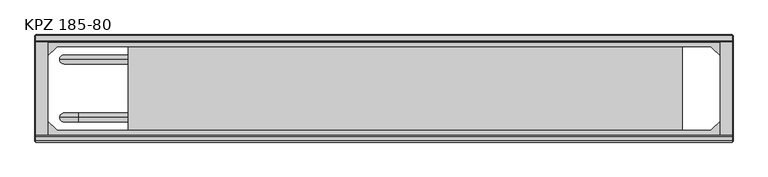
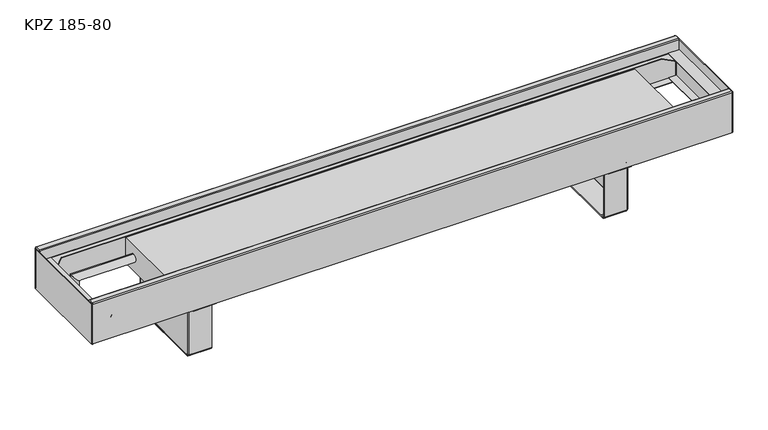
"""IFC4 building model written with IfcOpenShell, lengths in millimetres: proxy geometry, TECHNO_Конвектор напольный_Vita KPZ 185 : KPZ 185-80."""

from ifc_helpers import new_model, si_unit, point, frame, origin, place, context, project, spatial, polyline, circle_curve, ellipse_curve, trimmed, outline, extrude, source, transform, mapped, element, save
from ifc_brep_helpers import plane_surface, cylinder_surface, revolved_surface, advanced_brep


def kpz_185_80_cd63fb03(model_context):
    return source(origin(), model_context, "Body", "SolidModel", [
        advanced_brep(
        [(409.7, -116.8, 1.5), (409.7, -114.5, 3.8), (409.7, -114.5, 4.9), (409.7, -116.0, 4.9), (409.7, -116.0, 3.8), (409.7, -116.8, 3.0), (409.7, -124.5, 3.0), (409.7, -124.5, 1.5), (409.7, -117.6, 1.5), (409.7, -114.5, 97.7), (409.7, -113.7, 98.5), (409.7, -101.0, 98.5), (409.7, -101.0, 100.0), (409.7, -113.7, 100.0), (409.7, -116.0, 97.7), (409.7, -116.0, 95.5), (409.7, -114.5, 95.5), (409.7, -270.5, 3.8), (409.7, -268.2, 1.5), (409.7, -267.4, 1.5), (409.7, -260.5, 1.5), (409.7, -260.5, 3.0), (409.7, -268.2, 3.0), (409.7, -269.0, 3.8), (409.7, -269.0, 4.9), (409.7, -270.5, 4.9), (409.7, -269.0, 97.7), (409.7, -271.3, 100.0), (409.7, -284.0, 100.0), (409.7, -284.0, 98.5), (409.7, -271.3, 98.5), (409.7, -270.5, 97.7), (409.7, -270.5, 95.5), (409.7, -269.0, 95.5), (367.0, -270.5, 97.7), (367.0, -271.3, 98.5), (367.0, -284.0, 98.5), (367.0, -284.0, 100.0), (367.0, -271.3, 100.0), (367.0, -269.0, 97.7), (367.0, -269.0, 3.8), (367.0, -268.2, 3.0), (367.0, -260.5, 3.0), (367.0, -260.5, 1.5), (367.0, -124.5, 1.5), (367.0, -124.5, 3.0), (367.0, -116.8, 3.0), (367.0, -116.0, 3.8), (367.0, -116.0, 97.7), (367.0, -113.7, 100.0), (367.0, -101.0, 100.0), (367.0, -101.0, 98.5), (367.0, -113.7, 98.5), (367.0, -114.5, 97.7), (367.0, -114.5, 3.8), (367.0, -116.8, 1.5), (367.0, -117.6, 1.5), (367.0, -117.6, 0.0), (367.0, -267.4, 0.0), (367.0, -267.4, 1.5), (367.0, -268.2, 1.5), (367.0, -270.5, 3.8), (410.5, -116.8, 95.5), (410.5, -268.2, 95.5), (412.0, -268.2, 95.5), (412.0, -116.8, 95.5), (412.0, -116.8, 4.9), (412.0, -117.6, 4.9), (410.5, -117.6, 4.9), (410.5, -116.8, 4.9), (410.5, -268.2, 4.9), (410.5, -267.4, 4.9), (412.0, -267.4, 4.9), (412.0, -268.2, 4.9), (410.5, -117.6, 2.3), (410.5, -267.4, 2.3), (411.9999999, -267.4, 2.3), (412.0, -117.6, 2.3), (409.7, -117.6, 0.0), (409.7, -267.4, 0.0)],
        [
            (0, 1, circle_curve(frame((409.7, -116.8, 3.8), z_axis=(1.0, 0.0, 0.0), x_axis=(0.0, -1.0, 0.0)), 2.3)),
            (1, 2),
            (2, 3),
            (3, 4),
            (4, 5, circle_curve(frame((409.7, -116.8, 3.8), z_axis=(-1.0, 0.0, 0.0), x_axis=(0.0, -1.0, 0.0)), 0.8)),
            (5, 6),
            (6, 7),
            (7, 8),
            (8, 0),
            (9, 10, circle_curve(frame((409.7, -113.7, 97.7), z_axis=(-1.0, 0.0, 0.0), x_axis=(0.0, -1.0, 0.0)), 0.8)),
            (10, 11),
            (11, 12),
            (12, 13),
            (13, 14, circle_curve(frame((409.7, -113.7, 97.7), z_axis=(1.0, 0.0, 0.0), x_axis=(0.0, -1.0, 0.0)), 2.3)),
            (14, 15),
            (15, 16),
            (16, 9),
            (17, 18, circle_curve(frame((409.7, -268.2, 3.8), z_axis=(1.0, 0.0, 0.0), x_axis=(0.0, -1.0, 0.0)), 2.3)),
            (18, 19),
            (19, 20),
            (20, 21),
            (21, 22),
            (22, 23, circle_curve(frame((409.7, -268.2, 3.8), z_axis=(-1.0, 0.0, 0.0), x_axis=(0.0, -1.0, 0.0)), 0.8)),
            (23, 24),
            (24, 25),
            (25, 17),
            (26, 27, circle_curve(frame((409.7, -271.3, 97.7), z_axis=(1.0, 0.0, 0.0), x_axis=(0.0, -1.0, 0.0)), 2.3)),
            (27, 28),
            (28, 29),
            (29, 30),
            (30, 31, circle_curve(frame((409.7, -271.3, 97.7), z_axis=(-1.0, 0.0, 0.0), x_axis=(0.0, -1.0, 0.0)), 0.8)),
            (31, 32),
            (32, 33),
            (33, 26),
            (34, 35, circle_curve(frame((367.0, -271.3, 97.7), z_axis=(1.0, 0.0, 0.0), x_axis=(0.0, -1.0, 0.0)), 0.8)),
            (35, 36),
            (36, 37),
            (37, 38),
            (38, 39, circle_curve(frame((367.0, -271.3, 97.7), z_axis=(-1.0, 0.0, 0.0), x_axis=(0.0, -1.0, 0.0)), 2.3)),
            (39, 40),
            (40, 41, circle_curve(frame((367.0, -268.2, 3.8), z_axis=(1.0, 0.0, 0.0), x_axis=(0.0, -1.0, 0.0)), 0.8)),
            (41, 42),
            (42, 43),
            (43, 44),
            (44, 45),
            (45, 46),
            (46, 47, circle_curve(frame((367.0, -116.8, 3.8), z_axis=(1.0, 0.0, 0.0), x_axis=(0.0, -1.0, 0.0)), 0.8)),
            (47, 48),
            (48, 49, circle_curve(frame((367.0, -113.7, 97.7), z_axis=(-1.0, 0.0, 0.0), x_axis=(0.0, -1.0, 0.0)), 2.3)),
            (49, 50),
            (50, 51),
            (51, 52),
            (52, 53, circle_curve(frame((367.0, -113.7, 97.7), z_axis=(1.0, 0.0, 0.0), x_axis=(0.0, -1.0, 0.0)), 0.8)),
            (53, 54),
            (54, 55, circle_curve(frame((367.0, -116.8, 3.8), z_axis=(-1.0, 0.0, 0.0), x_axis=(0.0, -1.0, 0.0)), 2.3)),
            (55, 56),
            (56, 57),
            (57, 58),
            (58, 59),
            (59, 60),
            (60, 61, circle_curve(frame((367.0, -268.2, 3.8), z_axis=(-1.0, 0.0, 0.0), x_axis=(0.0, -1.0, 0.0)), 2.3)),
            (61, 34),
            (30, 35),
            (34, 31),
            (29, 36),
            (28, 37),
            (27, 38),
            (26, 39),
            (33, 24),
            (23, 40),
            (22, 41),
            (5, 46),
            (45, 6),
            (4, 47),
            (3, 15),
            (14, 48),
            (13, 49),
            (12, 50),
            (11, 51),
            (10, 52),
            (9, 53),
            (16, 2),
            (1, 54),
            (0, 55),
            (8, 56),
            (17, 61),
            (60, 18),
            (25, 32),
            (21, 42),
            (20, 43),
            (59, 19),
            (44, 7),
            (15, 62, circle_curve(frame((409.7, -116.8, 95.5), z_axis=(0.0, 0.0, -1.0), x_axis=(-1.0, 0.0, 0.0)), 0.8)),
            (62, 63),
            (63, 33, circle_curve(frame((409.7, -268.2, 95.5), z_axis=(0.0, 0.0, -1.0), x_axis=(-1.0, 0.0, 0.0)), 0.8)),
            (32, 64, circle_curve(frame((409.7, -268.2, 95.5), z_axis=(0.0, 0.0, 1.0), x_axis=(-1.0, 0.0, 0.0)), 2.3)),
            (64, 65),
            (65, 16, circle_curve(frame((409.7, -116.8, 95.5), z_axis=(0.0, 0.0, 1.0), x_axis=(-1.0, 0.0, 0.0)), 2.3)),
            (2, 66, circle_curve(frame((409.7, -116.8, 4.9), z_axis=(0.0, 0.0, -1.0), x_axis=(-1.0, 0.0, 0.0)), 2.3)),
            (66, 67),
            (67, 68),
            (68, 69),
            (69, 3, circle_curve(frame((409.7, -116.8, 4.9), z_axis=(0.0, 0.0, 1.0), x_axis=(-1.0, 0.0, 0.0)), 0.8)),
            (24, 70, circle_curve(frame((409.7, -268.2, 4.9), z_axis=(0.0, 0.0, 1.0), x_axis=(-1.0, 0.0, 0.0)), 0.8)),
            (70, 71),
            (71, 72),
            (72, 73),
            (73, 25, circle_curve(frame((409.7, -268.2, 4.9), z_axis=(0.0, 0.0, -1.0), x_axis=(-1.0, 0.0, 0.0)), 2.3)),
            (69, 62),
            (68, 74),
            (74, 75),
            (75, 71),
            (70, 63),
            (64, 73),
            (72, 76),
            (76, 77),
            (77, 67),
            (66, 65),
            (8, 74, circle_curve(frame((409.7, -117.6, 2.3), z_axis=(0.0, -1.0, 0.0), x_axis=(-1.0, 0.0, 0.0)), 0.8)),
            (77, 78, circle_curve(frame((409.7, -117.6, 2.3), z_axis=(0.0, 1.0, 0.0), x_axis=(-1.0, 0.0, 0.0)), 2.3)),
            (78, 57),
            (58, 79),
            (79, 76, circle_curve(frame((409.7, -267.4, 2.3), z_axis=(0.0, -1.0, 0.0), x_axis=(-1.0, 0.0, 0.0)), 2.3)),
            (75, 19, circle_curve(frame((409.7, -267.4, 2.3), z_axis=(0.0, 1.0, 0.0), x_axis=(-1.0, 0.0, 0.0)), 0.8)),
            (20, 7),
            (79, 78),
        ],
        [
            plane_surface(frame((409.7, -272.1, 97.7), z_axis=(1.0, 0.0, 0.0), x_axis=(0.0, 0.0, 1.0))),
            plane_surface(frame((367.0, -272.1, 97.7), z_axis=(-1.0, 0.0, 0.0), x_axis=(0.0, 0.0, -1.0))),
            revolved_surface(polyline([(409.7, -272.1, 97.7), (367.0, -272.1, 97.7)]), (409.7, -271.3, 97.7), (1.0, 0.0, 0.0)),
            plane_surface(frame((367.0, -271.3, 98.5), z_axis=(0.0, 0.0, -1.0), x_axis=(1.0, 0.0, 0.0))),
            plane_surface(frame((367.0, -284.0, 98.5), z_axis=(0.0, -1.0, 0.0), x_axis=(1.0, 0.0, 0.0))),
            plane_surface(frame((367.0, -284.0, 100.0), z_axis=(0.0, 0.0, 1.0), x_axis=(1.0, 0.0, 0.0))),
            cylinder_surface(frame((409.7, -271.3, 97.7), z_axis=(-1.0, 0.0, 0.0), x_axis=(0.0, -1.0, 0.0)), 2.3),
            plane_surface(frame((367.0, -269.0, 97.7), z_axis=(0.0, 1.0, 3.692083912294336e-12), x_axis=(1.0, 0.0, 0.0))),
            revolved_surface(polyline([(409.7, -269.0, 3.8), (367.0, -269.0, 3.8)]), (409.7, -268.2, 3.8), (1.0, 0.0, 0.0)),
            plane_surface(frame((367.0, -124.5, 3.0), z_axis=(0.0, 0.0, 1.0), x_axis=(1.0, 0.0, 0.0))),
            revolved_surface(polyline([(409.7, -117.6, 3.8), (367.0, -117.6, 3.8)]), (412.0, -116.8, 3.8), (1.0, 0.0, 0.0)),
            plane_surface(frame((367.0, -116.0, 3.8), z_axis=(0.0, -1.0, 0.0), x_axis=(1.0, 0.0, 0.0))),
            cylinder_surface(frame((412.0, -113.7, 97.7), z_axis=(-1.0, 0.0, 0.0), x_axis=(0.0, -1.0, 0.0)), 2.3),
            plane_surface(frame((367.0, -113.7, 100.0), z_axis=(0.0, 0.0, 1.0), x_axis=(1.0, 0.0, 0.0))),
            plane_surface(frame((367.0, -101.0, 100.0), z_axis=(0.0, 1.0, 0.0), x_axis=(1.0, 0.0, 0.0))),
            plane_surface(frame((367.0, -101.0, 98.5), z_axis=(0.0, 0.0, -1.0), x_axis=(1.0, 0.0, 0.0))),
            revolved_surface(polyline([(409.7, -114.5, 97.7), (367.0, -114.5, 97.7)]), (412.0, -113.7, 97.7), (1.0, 0.0, 0.0)),
            plane_surface(frame((367.0, -114.5, 97.7), z_axis=(0.0, 1.0, 0.0), x_axis=(1.0, 0.0, 0.0))),
            cylinder_surface(frame((412.0, -116.8, 3.8), z_axis=(-1.0, 0.0, 0.0), x_axis=(0.0, -1.0, 0.0)), 2.3),
            plane_surface(frame((367.0, -116.8, 1.5), z_axis=(0.0, 0.0, -1.0), x_axis=(1.0, 0.0, 0.0))),
            cylinder_surface(frame((409.7, -268.2, 3.8), z_axis=(-1.0, 0.0, 0.0), x_axis=(0.0, -1.0, 0.0)), 2.3),
            plane_surface(frame((367.0, -270.5, 3.8), z_axis=(0.0, -1.0, 0.0), x_axis=(1.0, 0.0, 0.0))),
            plane_surface(frame((367.0, -268.2, 3.0), z_axis=(0.0, 0.0, 1.0), x_axis=(1.0, 0.0, 0.0))),
            plane_surface(frame((367.0, -260.5, 3.0), z_axis=(0.0, 1.0, 0.0), x_axis=(1.0, 0.0, 0.0))),
            plane_surface(frame((367.0, -260.5, 1.5), z_axis=(0.0, 0.0, -1.0), x_axis=(1.0, 0.0, 0.0))),
            plane_surface(frame((367.0, -124.5, 1.5), z_axis=(0.0, -1.0, 0.0), x_axis=(1.0, 0.0, 0.0))),
            plane_surface(frame((409.7, -116.0, 95.5), z_axis=(0.0, 0.0, 1.0), x_axis=(0.0, -1.0, 0.0))),
            plane_surface(frame((409.7, -116.0, 4.9), z_axis=(0.0, 0.0, -1.0), x_axis=(0.0, 1.0, 0.0))),
            revolved_surface(polyline([(408.9, -116.8, 4.9), (408.9, -116.8, 95.5)]), (409.7, -116.8, 4.9), (0.0, 0.0, -1.0)),
            plane_surface(frame((410.5, -116.8, 95.5), z_axis=(-1.0, 0.0, 0.0), x_axis=(0.0, 0.0, -1.0))),
            plane_surface(frame((412.0, -117.6, 95.5), z_axis=(1.0, -4.322665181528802e-10, 0.0), x_axis=(0.0, 0.0, -1.0))),
            cylinder_surface(frame((409.7, -116.8, 4.9), z_axis=(0.0, 0.0, 1.0), x_axis=(-1.0, 0.0, 0.0)), 2.3),
            cylinder_surface(frame((409.7, -268.2, 0.0), z_axis=(0.0, 0.0, 1.0), x_axis=(-1.0, 0.0, 0.0)), 2.3),
            revolved_surface(polyline([(408.9, -268.2, 4.9), (408.9, -268.2, 95.5)]), (409.7, -268.2, 0.0), (0.0, 0.0, -1.0)),
            plane_surface(frame((367.0, -117.6, 1.5), z_axis=(0.0, 1.0, 0.0), x_axis=(0.0, 0.0, 1.0))),
            plane_surface(frame((367.0, -267.4, 1.5), z_axis=(0.0, -1.0, 0.0), x_axis=(0.0, 0.0, -1.0))),
            plane_surface(frame((367.0, -117.6, 1.5), z_axis=(0.0, 0.0, 1.0), x_axis=(0.0, -1.0, 0.0))),
            revolved_surface(polyline([(408.9, -267.4, 2.3), (408.9, -117.6, 2.3)]), (409.7, -267.4, 2.3), (0.0, -1.0, 0.0)),
            cylinder_surface(frame((409.7, -267.4, 2.3), z_axis=(0.0, 1.0, 0.0), x_axis=(-1.0, 0.0, 0.0)), 2.3),
            plane_surface(frame((409.7, -117.6, 0.0), z_axis=(0.0, 0.0, -1.0), x_axis=(0.0, -1.0, 0.0))),
        ],
        [
            (0, [[1, 2, 3, 4, 5, 6, 7, 8, 9]]),
            (0, [[10, 11, 12, 13, 14, 15, 16, 17]]),
            (0, [[18, 19, 20, 21, 22, 23, 24, 25, 26]]),
            (0, [[27, 28, 29, 30, 31, 32, 33, 34]]),
            (1, [[35, 36, 37, 38, 39, 40, 41, 42, 43, 44, 45, 46, 47, 48, 49, 50, 51, 52, 53, 54, 55, 56, 57, 58, 59, 60, 61, 62]]),
            (2, [[-31, 63, -35, 64]]),
            (3, [[-30, 65, -36, -63]]),
            (4, [[-29, 66, -37, -65]]),
            (5, [[-28, 67, -38, -66]]),
            (6, [[-27, 68, -39, -67]]),
            (7, [[-40, -68, -34, 69, -24, 70]]),
            (8, [[-23, 71, -41, -70]]),
            (9, [[-6, 72, -46, 73]]),
            (10, [[-5, 74, -47, -72]]),
            (11, [[-48, -74, -4, 75, -15, 76]]),
            (12, [[-14, 77, -49, -76]]),
            (13, [[-13, 78, -50, -77]]),
            (14, [[-12, 79, -51, -78]]),
            (15, [[-11, 80, -52, -79]]),
            (16, [[-10, 81, -53, -80]]),
            (17, [[-54, -81, -17, 82, -2, 83]]),
            (18, [[-1, 84, -55, -83]]),
            (19, [[-84, -9, 85, -56]]),
            (20, [[-18, 86, -61, 87]]),
            (21, [[-62, -86, -26, 88, -32, -64]]),
            (22, [[-22, 89, -42, -71]]),
            (23, [[-21, 90, -43, -89]]),
            (24, [[-87, -60, 91, -19]]),
            (25, [[-7, -73, -45, 92]]),
            (26, [[93, 94, 95, -33, 96, 97, 98, -16]]),
            (27, [[99, 100, 101, 102, 103, -3]]),
            (27, [[104, 105, 106, 107, 108, -25]]),
            (28, [[-93, -75, -103, 109]]),
            (29, [[-94, -109, -102, 110, 111, 112, -105, 113]]),
            (30, [[-97, 114, -107, 115, 116, 117, -100, 118]]),
            (31, [[-98, -118, -99, -82]]),
            (32, [[-96, -88, -108, -114]]),
            (33, [[-95, -113, -104, -69]]),
            (34, [[-57, -85, 119, -110, -101, -117, 120, 121]]),
            (35, [[122, 123, -115, -106, -112, 124, -91, -59]]),
            (36, [[125, -92, -44, -90]]),
            (37, [[-119, -8, -125, -20, -124, -111]]),
            (38, [[-120, -116, -123, 126]]),
            (39, [[-121, -126, -122, -58]]),
        ],
    ),
        advanced_brep(
        [(-409.7, -268.2, 1.5), (-409.7, -270.5, 3.8), (-409.7, -270.5, 4.9), (-409.7, -269.0, 4.9), (-409.7, -269.0, 3.8), (-409.7, -268.2, 3.0), (-409.7, -260.5, 3.0), (-409.7, -260.5, 1.5), (-409.7, -267.4, 1.5), (-409.7, -270.5, 97.7), (-409.7, -271.3, 98.5), (-409.7, -284.0, 98.5), (-409.7, -284.0, 100.0), (-409.7, -271.3, 100.0), (-409.7, -269.0, 97.7), (-409.7, -269.0, 95.5), (-409.7, -270.5, 95.5), (-409.7, -114.5, 3.8), (-409.7, -116.8, 1.5), (-409.7, -117.6, 1.5), (-409.7, -124.5, 1.5), (-409.7, -124.5, 3.0), (-409.7, -116.8, 3.0), (-409.7, -116.0, 3.8), (-409.7, -116.0, 4.9), (-409.7, -114.5, 4.9), (-409.7, -116.0, 97.7), (-409.7, -113.7, 100.0), (-409.7, -101.0, 100.0), (-409.7, -101.0, 98.5), (-409.7, -113.7, 98.5), (-409.7, -114.5, 97.7), (-409.7, -114.5, 95.5), (-409.7, -116.0, 95.5), (-367.0, -114.5, 97.7), (-367.0, -113.7, 98.5), (-367.0, -101.0, 98.5), (-367.0, -101.0, 100.0), (-367.0, -113.7, 100.0), (-367.0, -116.0, 97.7), (-367.0, -116.0, 3.8), (-367.0, -116.8, 3.0), (-367.0, -124.5, 3.0), (-367.0, -124.5, 1.5), (-367.0, -260.5, 1.5), (-367.0, -260.5, 3.0), (-367.0, -268.2, 3.0), (-367.0, -269.0, 3.8), (-367.0, -269.0, 97.7), (-367.0, -271.3, 100.0), (-367.0, -284.0, 100.0), (-367.0, -284.0, 98.5), (-367.0, -271.3, 98.5), (-367.0, -270.5, 97.7), (-367.0, -270.5, 3.8), (-367.0, -268.2, 1.5), (-367.0, -267.4, 1.5), (-367.0, -267.4, 0.0), (-367.0, -117.6, 0.0), (-367.0, -117.6, 1.5), (-367.0, -116.8, 1.5), (-367.0, -114.5, 3.8), (-410.5, -268.2, 95.5), (-410.5, -116.8, 95.5), (-412.0, -116.8, 95.5), (-412.0, -268.2, 95.5), (-412.0, -268.2, 4.9), (-412.0, -267.4, 4.9), (-410.5, -267.4, 4.9), (-410.5, -268.2, 4.9), (-410.5, -116.8, 4.9), (-410.5, -117.6, 4.9), (-412.0, -117.6, 4.9), (-412.0, -116.8, 4.9), (-410.5, -267.4, 2.3), (-410.5, -117.6, 2.3), (-411.9999999, -117.6, 2.3), (-412.0, -267.4, 2.3), (-409.7, -267.4, 0.0), (-409.7, -117.6, 0.0)],
        [
            (0, 1, circle_curve(frame((-409.7, -268.2, 3.8), z_axis=(-1.0, 0.0, 0.0), x_axis=(0.0, 1.0, 0.0)), 2.3)),
            (1, 2),
            (2, 3),
            (3, 4),
            (4, 5, circle_curve(frame((-409.7, -268.2, 3.8), z_axis=(1.0, 0.0, 0.0), x_axis=(0.0, 1.0, 0.0)), 0.8)),
            (5, 6),
            (6, 7),
            (7, 8),
            (8, 0),
            (9, 10, circle_curve(frame((-409.7, -271.3, 97.7), z_axis=(1.0, 0.0, 0.0), x_axis=(0.0, 1.0, 0.0)), 0.8)),
            (10, 11),
            (11, 12),
            (12, 13),
            (13, 14, circle_curve(frame((-409.7, -271.3, 97.7), z_axis=(-1.0, 0.0, 0.0), x_axis=(0.0, 1.0, 0.0)), 2.3)),
            (14, 15),
            (15, 16),
            (16, 9),
            (17, 18, circle_curve(frame((-409.7, -116.8, 3.8), z_axis=(-1.0, 0.0, 0.0), x_axis=(0.0, 1.0, 0.0)), 2.3)),
            (18, 19),
            (19, 20),
            (20, 21),
            (21, 22),
            (22, 23, circle_curve(frame((-409.7, -116.8, 3.8), z_axis=(1.0, 0.0, 0.0), x_axis=(0.0, 1.0, 0.0)), 0.8)),
            (23, 24),
            (24, 25),
            (25, 17),
            (26, 27, circle_curve(frame((-409.7, -113.7, 97.7), z_axis=(-1.0, 0.0, 0.0), x_axis=(0.0, 1.0, 0.0)), 2.3)),
            (27, 28),
            (28, 29),
            (29, 30),
            (30, 31, circle_curve(frame((-409.7, -113.7, 97.7), z_axis=(1.0, 0.0, 0.0), x_axis=(0.0, 1.0, 0.0)), 0.8)),
            (31, 32),
            (32, 33),
            (33, 26),
            (34, 35, circle_curve(frame((-367.0, -113.7, 97.7), z_axis=(-1.0, 0.0, 0.0), x_axis=(0.0, 1.0, 0.0)), 0.8)),
            (35, 36),
            (36, 37),
            (37, 38),
            (38, 39, circle_curve(frame((-367.0, -113.7, 97.7), z_axis=(1.0, 0.0, 0.0), x_axis=(0.0, 1.0, 0.0)), 2.3)),
            (39, 40),
            (40, 41, circle_curve(frame((-367.0, -116.8, 3.8), z_axis=(-1.0, 0.0, 0.0), x_axis=(0.0, 1.0, 0.0)), 0.8)),
            (41, 42),
            (42, 43),
            (43, 44),
            (44, 45),
            (45, 46),
            (46, 47, circle_curve(frame((-367.0, -268.2, 3.8), z_axis=(-1.0, 0.0, 0.0), x_axis=(0.0, 1.0, 0.0)), 0.8)),
            (47, 48),
            (48, 49, circle_curve(frame((-367.0, -271.3, 97.7), z_axis=(1.0, 0.0, 0.0), x_axis=(0.0, 1.0, 0.0)), 2.3)),
            (49, 50),
            (50, 51),
            (51, 52),
            (52, 53, circle_curve(frame((-367.0, -271.3, 97.7), z_axis=(-1.0, 0.0, 0.0), x_axis=(0.0, 1.0, 0.0)), 0.8)),
            (53, 54),
            (54, 55, circle_curve(frame((-367.0, -268.2, 3.8), z_axis=(1.0, 0.0, 0.0), x_axis=(0.0, 1.0, 0.0)), 2.3)),
            (55, 56),
            (56, 57),
            (57, 58),
            (58, 59),
            (59, 60),
            (60, 61, circle_curve(frame((-367.0, -116.8, 3.8), z_axis=(1.0, 0.0, 0.0), x_axis=(0.0, 1.0, 0.0)), 2.3)),
            (61, 34),
            (30, 35),
            (34, 31),
            (29, 36),
            (28, 37),
            (27, 38),
            (26, 39),
            (33, 24),
            (23, 40),
            (22, 41),
            (5, 46),
            (45, 6),
            (4, 47),
            (3, 15),
            (14, 48),
            (13, 49),
            (12, 50),
            (11, 51),
            (10, 52),
            (9, 53),
            (16, 2),
            (1, 54),
            (0, 55),
            (8, 56),
            (17, 61),
            (60, 18),
            (25, 32),
            (21, 42),
            (20, 43),
            (59, 19),
            (44, 7),
            (15, 62, circle_curve(frame((-409.7, -268.2, 95.5), z_axis=(0.0, 0.0, -1.0), x_axis=(1.0, 0.0, 0.0)), 0.8)),
            (62, 63),
            (63, 33, circle_curve(frame((-409.7, -116.8, 95.5), z_axis=(0.0, 0.0, -1.0), x_axis=(1.0, 0.0, 0.0)), 0.8)),
            (32, 64, circle_curve(frame((-409.7, -116.8, 95.5), z_axis=(0.0, 0.0, 1.0), x_axis=(1.0, 0.0, 0.0)), 2.3)),
            (64, 65),
            (65, 16, circle_curve(frame((-409.7, -268.2, 95.5), z_axis=(0.0, 0.0, 1.0), x_axis=(1.0, 0.0, 0.0)), 2.3)),
            (2, 66, circle_curve(frame((-409.7, -268.2, 4.9), z_axis=(0.0, 0.0, -1.0), x_axis=(1.0, 0.0, 0.0)), 2.3)),
            (66, 67),
            (67, 68),
            (68, 69),
            (69, 3, circle_curve(frame((-409.7, -268.2, 4.9), z_axis=(0.0, 0.0, 1.0), x_axis=(1.0, 0.0, 0.0)), 0.8)),
            (24, 70, circle_curve(frame((-409.7, -116.8, 4.9), z_axis=(0.0, 0.0, 1.0), x_axis=(1.0, 0.0, 0.0)), 0.8)),
            (70, 71),
            (71, 72),
            (72, 73),
            (73, 25, circle_curve(frame((-409.7, -116.8, 4.9), z_axis=(0.0, 0.0, -1.0), x_axis=(1.0, 0.0, 0.0)), 2.3)),
            (69, 62),
            (68, 74),
            (74, 75),
            (75, 71),
            (70, 63),
            (64, 73),
            (72, 76),
            (76, 77),
            (77, 67),
            (66, 65),
            (8, 74, circle_curve(frame((-409.7, -267.4, 2.3), z_axis=(0.0, 1.0, 0.0), x_axis=(1.0, 0.0, 0.0)), 0.8)),
            (77, 78, circle_curve(frame((-409.7, -267.4, 2.3), z_axis=(0.0, -1.0, 0.0), x_axis=(1.0, 0.0, 0.0)), 2.3)),
            (78, 57),
            (58, 79),
            (79, 76, circle_curve(frame((-409.7, -117.6, 2.3), z_axis=(0.0, 1.0, 0.0), x_axis=(1.0, 0.0, 0.0)), 2.3)),
            (75, 19, circle_curve(frame((-409.7, -117.6, 2.3), z_axis=(0.0, -1.0, 0.0), x_axis=(1.0, 0.0, 0.0)), 0.8)),
            (20, 7),
            (79, 78),
        ],
        [
            plane_surface(frame((-409.7, -112.9, 97.7), z_axis=(-1.0, 0.0, 0.0), x_axis=(0.0, 0.0, 1.0))),
            plane_surface(frame((-367.0, -112.9, 97.7), z_axis=(1.0, 0.0, 0.0), x_axis=(0.0, 0.0, -1.0))),
            revolved_surface(polyline([(-409.7, -112.9, 97.7), (-367.0, -112.9, 97.7)]), (-409.7, -113.7, 97.7), (-1.0, 0.0, 0.0)),
            plane_surface(frame((-367.0, -113.7, 98.5), z_axis=(0.0, 0.0, -1.0), x_axis=(-1.0, 0.0, 0.0))),
            plane_surface(frame((-367.0, -101.0, 98.5), z_axis=(0.0, 1.0, 0.0), x_axis=(-1.0, 0.0, 0.0))),
            plane_surface(frame((-367.0, -101.0, 100.0), z_axis=(0.0, 0.0, 1.0), x_axis=(-1.0, 0.0, 0.0))),
            cylinder_surface(frame((-409.7, -113.7, 97.7), z_axis=(1.0, 0.0, 0.0), x_axis=(0.0, 1.0, 0.0)), 2.3),
            plane_surface(frame((-367.0, -116.0, 97.7), z_axis=(0.0, -1.0, 3.692083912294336e-12), x_axis=(-1.0, 0.0, 0.0))),
            revolved_surface(polyline([(-409.7, -116.0, 3.8), (-367.0, -116.0, 3.8)]), (-409.7, -116.8, 3.8), (-1.0, 0.0, 0.0)),
            plane_surface(frame((-367.0, -260.5, 3.0), z_axis=(0.0, 0.0, 1.0), x_axis=(-1.0, 0.0, 0.0))),
            revolved_surface(polyline([(-409.7, -267.4, 3.8), (-367.0, -267.4, 3.8)]), (-412.0, -268.2, 3.8), (-1.0, 0.0, 0.0)),
            plane_surface(frame((-367.0, -269.0, 3.8), z_axis=(0.0, 1.0, 0.0), x_axis=(-1.0, 0.0, 0.0))),
            cylinder_surface(frame((-412.0, -271.3, 97.7), z_axis=(1.0, 0.0, 0.0), x_axis=(0.0, 1.0, 0.0)), 2.3),
            plane_surface(frame((-367.0, -271.3, 100.0), z_axis=(0.0, 0.0, 1.0), x_axis=(-1.0, 0.0, 0.0))),
            plane_surface(frame((-367.0, -284.0, 100.0), z_axis=(0.0, -1.0, 0.0), x_axis=(-1.0, 0.0, 0.0))),
            plane_surface(frame((-367.0, -284.0, 98.5), z_axis=(0.0, 0.0, -1.0), x_axis=(-1.0, 0.0, 0.0))),
            revolved_surface(polyline([(-409.7, -270.5, 97.7), (-367.0, -270.5, 97.7)]), (-412.0, -271.3, 97.7), (-1.0, 0.0, 0.0)),
            plane_surface(frame((-367.0, -270.5, 97.7), z_axis=(0.0, -1.0, 0.0), x_axis=(-1.0, 0.0, 0.0))),
            cylinder_surface(frame((-412.0, -268.2, 3.8), z_axis=(1.0, 0.0, 0.0), x_axis=(0.0, 1.0, 0.0)), 2.3),
            plane_surface(frame((-367.0, -268.2, 1.5), z_axis=(0.0, 0.0, -1.0), x_axis=(-1.0, 0.0, 0.0))),
            cylinder_surface(frame((-409.7, -116.8, 3.8), z_axis=(1.0, 0.0, 0.0), x_axis=(0.0, 1.0, 0.0)), 2.3),
            plane_surface(frame((-367.0, -114.5, 3.8), z_axis=(0.0, 1.0, 0.0), x_axis=(-1.0, 0.0, 0.0))),
            plane_surface(frame((-367.0, -116.8, 3.0), z_axis=(0.0, 0.0, 1.0), x_axis=(-1.0, 0.0, 0.0))),
            plane_surface(frame((-367.0, -124.5, 3.0), z_axis=(0.0, -1.0, 0.0), x_axis=(-1.0, 0.0, 0.0))),
            plane_surface(frame((-367.0, -124.5, 1.5), z_axis=(0.0, 0.0, -1.0), x_axis=(-1.0, 0.0, 0.0))),
            plane_surface(frame((-367.0, -260.5, 1.5), z_axis=(0.0, 1.0, 0.0), x_axis=(-1.0, 0.0, 0.0))),
            plane_surface(frame((-409.7, -269.0, 95.5), z_axis=(0.0, 0.0, 1.0), x_axis=(0.0, 1.0, 0.0))),
            plane_surface(frame((-409.7, -269.0, 4.9), z_axis=(0.0, 0.0, -1.0), x_axis=(0.0, -1.0, 0.0))),
            revolved_surface(polyline([(-408.9, -268.2, 4.9), (-408.9, -268.2, 95.5)]), (-409.7, -268.2, 4.9), (0.0, 0.0, -1.0)),
            plane_surface(frame((-410.5, -268.2, 95.5), z_axis=(1.0, 0.0, 0.0), x_axis=(0.0, 0.0, -1.0))),
            plane_surface(frame((-412.0, -267.4, 95.5), z_axis=(-1.0, 4.3226335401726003e-10, 0.0), x_axis=(0.0, 0.0, -1.0))),
            cylinder_surface(frame((-409.7, -268.2, 4.9), z_axis=(0.0, 0.0, 1.0), x_axis=(1.0, 0.0, 0.0)), 2.3),
            cylinder_surface(frame((-409.7, -116.8, 0.0), z_axis=(0.0, 0.0, 1.0), x_axis=(1.0, 0.0, 0.0)), 2.3),
            revolved_surface(polyline([(-408.9, -116.8, 4.9), (-408.9, -116.8, 95.5)]), (-409.7, -116.8, 0.0), (0.0, 0.0, -1.0)),
            plane_surface(frame((-367.0, -267.4, 1.5), z_axis=(0.0, -1.0, 0.0), x_axis=(0.0, 0.0, 1.0))),
            plane_surface(frame((-367.0, -117.6, 1.5), z_axis=(0.0, 1.0, 0.0), x_axis=(0.0, 0.0, -1.0))),
            plane_surface(frame((-367.0, -267.4, 1.5), z_axis=(0.0, 0.0, 1.0), x_axis=(0.0, 1.0, 0.0))),
            revolved_surface(polyline([(-408.9, -117.6, 2.3), (-408.9, -267.4, 2.3)]), (-409.7, -117.6, 2.3), (0.0, 1.0, 0.0)),
            cylinder_surface(frame((-409.7, -117.6, 2.3), z_axis=(0.0, -1.0, 0.0), x_axis=(1.0, 0.0, 0.0)), 2.3),
            plane_surface(frame((-409.7, -267.4, 0.0), z_axis=(0.0, 0.0, -1.0), x_axis=(0.0, 1.0, 0.0))),
        ],
        [
            (0, [[1, 2, 3, 4, 5, 6, 7, 8, 9]]),
            (0, [[10, 11, 12, 13, 14, 15, 16, 17]]),
            (0, [[18, 19, 20, 21, 22, 23, 24, 25, 26]]),
            (0, [[27, 28, 29, 30, 31, 32, 33, 34]]),
            (1, [[35, 36, 37, 38, 39, 40, 41, 42, 43, 44, 45, 46, 47, 48, 49, 50, 51, 52, 53, 54, 55, 56, 57, 58, 59, 60, 61, 62]]),
            (2, [[-31, 63, -35, 64]]),
            (3, [[-30, 65, -36, -63]]),
            (4, [[-29, 66, -37, -65]]),
            (5, [[-28, 67, -38, -66]]),
            (6, [[-27, 68, -39, -67]]),
            (7, [[-40, -68, -34, 69, -24, 70]]),
            (8, [[-23, 71, -41, -70]]),
            (9, [[-6, 72, -46, 73]]),
            (10, [[-5, 74, -47, -72]]),
            (11, [[-48, -74, -4, 75, -15, 76]]),
            (12, [[-14, 77, -49, -76]]),
            (13, [[-13, 78, -50, -77]]),
            (14, [[-12, 79, -51, -78]]),
            (15, [[-11, 80, -52, -79]]),
            (16, [[-10, 81, -53, -80]]),
            (17, [[-54, -81, -17, 82, -2, 83]]),
            (18, [[-1, 84, -55, -83]]),
            (19, [[-84, -9, 85, -56]]),
            (20, [[-18, 86, -61, 87]]),
            (21, [[-62, -86, -26, 88, -32, -64]]),
            (22, [[-22, 89, -42, -71]]),
            (23, [[-21, 90, -43, -89]]),
            (24, [[-87, -60, 91, -19]]),
            (25, [[-7, -73, -45, 92]]),
            (26, [[93, 94, 95, -33, 96, 97, 98, -16]]),
            (27, [[99, 100, 101, 102, 103, -3]]),
            (27, [[104, 105, 106, 107, 108, -25]]),
            (28, [[-93, -75, -103, 109]]),
            (29, [[-94, -109, -102, 110, 111, 112, -105, 113]]),
            (30, [[-97, 114, -107, 115, 116, 117, -100, 118]]),
            (31, [[-98, -118, -99, -82]]),
            (32, [[-96, -88, -108, -114]]),
            (33, [[-95, -113, -104, -69]]),
            (34, [[-57, -85, 119, -110, -101, -117, 120, 121]]),
            (35, [[122, 123, -115, -106, -112, 124, -91, -59]]),
            (36, [[125, -92, -44, -90]]),
            (37, [[-119, -8, -125, -20, -124, -111]]),
            (38, [[-120, -116, -123, 126]]),
            (39, [[-121, -126, -122, -58]]),
        ],
    ),
        advanced_brep(
        [(-440.0, -242.5, 136.5), (-440.0, -242.5, 121.5), (-525.0, -242.5, 136.5), (-525.0, -242.5, 121.5), (-542.5, -242.5, 104.0), (-557.5, -242.5, 104.0), (-557.5, -242.5, 100.0), (-542.5, -242.5, 100.0)],
        [
            (0, 1, circle_curve(frame((-440.0, -242.5, 129.0), z_axis=(1.0, 0.0, 0.0), x_axis=(0.0, 0.0, -1.0)), 7.5)),
            (1, 0, circle_curve(frame((-440.0, -242.5, 129.0), z_axis=(1.0, 0.0, 0.0), x_axis=(0.0, 0.0, -1.0)), 7.5)),
            (0, 2),
            (2, 3, circle_curve(frame((-525.0, -242.5, 129.0), z_axis=(1.0, 0.0, 0.0), x_axis=(0.0, 0.0, -1.0)), 7.5)),
            (3, 1),
            (3, 2, circle_curve(frame((-525.0, -242.5, 129.0), z_axis=(1.0, 0.0, 0.0), x_axis=(0.0, 0.0, -1.0)), 7.5)),
            (4, 3, circle_curve(frame((-525.0, -242.5, 104.0), z_axis=(0.0, 1.0, 0.0), x_axis=(0.0, 0.0, 1.0)), 17.5)),
            (2, 5, circle_curve(frame((-525.0, -242.5, 104.0), z_axis=(0.0, -1.0, 0.0), x_axis=(0.0, 0.0, 1.0)), 32.5)),
            (5, 4, circle_curve(frame((-550.0, -242.5, 104.0), z_axis=(0.0, 0.0, 1.0), x_axis=(1.0, 0.0, 0.0)), 7.5)),
            (4, 5, circle_curve(frame((-550.0, -242.5, 104.0), z_axis=(0.0, 0.0, 1.0), x_axis=(1.0, 0.0, 0.0)), 7.5)),
            (6, 7, circle_curve(frame((-550.0, -242.5, 100.0), z_axis=(0.0, 0.0, -1.0), x_axis=(1.0, 0.0, 0.0)), 7.5)),
            (7, 6, circle_curve(frame((-550.0, -242.5, 100.0), z_axis=(0.0, 0.0, -1.0), x_axis=(1.0, 0.0, 0.0)), 7.5)),
            (5, 6),
            (7, 4),
        ],
        [
            plane_surface(frame((-440.0, -242.5, 129.0), z_axis=(1.0, 0.0, 0.0), x_axis=(0.0, -1.0, 0.0))),
            cylinder_surface(frame((-440.0, -242.5, 129.0), z_axis=(1.0, 0.0, 0.0), x_axis=(0.0, 0.0, -1.0)), 7.5),
            revolved_surface(trimmed(ellipse_curve(frame((-525.0, -242.5, 129.0), z_axis=(1.0, 0.0, 0.0), x_axis=(0.0, 0.0, -1.0)), 7.5, 7.5), [point((-525.0, -242.5, 136.5))], [point((-525.0, -242.5, 121.5))], True, "CARTESIAN"), (-525.0, -242.5, 104.0), (0.0, -1.0, 0.0)),
            revolved_surface(trimmed(ellipse_curve(frame((-525.0, -242.5, 129.0), z_axis=(1.0, 0.0, 0.0), x_axis=(0.0, 0.0, -1.0)), 7.5, 7.5), [point((-525.0, -242.5, 121.5))], [point((-525.0, -242.5, 136.5))], True, "CARTESIAN"), (-525.0, -242.5, 104.0), (0.0, -1.0, 0.0)),
            plane_surface(frame((-550.0, -242.5, 100.0), z_axis=(0.0, 0.0, -1.0), x_axis=(0.0, -1.0, 0.0))),
            cylinder_surface(frame((-550.0, -242.5, 104.0), z_axis=(0.0, 0.0, 1.0), x_axis=(1.0, 0.0, 0.0)), 7.5),
        ],
        [
            (0, [[1, 2]]),
            (1, [[-1, 3, 4, 5]]),
            (1, [[-2, -5, 6, -3]]),
            (2, [[7, -4, 8, 9]]),
            (3, [[-8, -6, -7, 10]]),
            (4, [[11, 12]]),
            (5, [[-9, 13, -12, 14]]),
            (5, [[-10, -14, -11, -13]]),
        ],
    ),
        advanced_brep(
        [(-440.0, -142.5, 136.5), (-440.0, -142.5, 121.5), (-557.5, -142.5, 136.5), (-542.5, -142.5, 121.5), (-557.5, -142.5, 100.0), (-542.5, -142.5, 100.0)],
        [
            (0, 1, circle_curve(frame((-440.0, -142.5, 129.0), z_axis=(1.0, 0.0, 0.0), x_axis=(0.0, 0.0, -1.0)), 7.5)),
            (1, 0, circle_curve(frame((-440.0, -142.5, 129.0), z_axis=(1.0, 0.0, 0.0), x_axis=(0.0, 0.0, -1.0)), 7.5)),
            (0, 2),
            (2, 3, ellipse_curve(frame((-550.0, -142.5, 129.0), z_axis=(0.7071067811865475, 0.0, 0.7071067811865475), x_axis=(0.7071067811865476, 0.0, -0.7071067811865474)), 10.6066017, 7.5)),
            (3, 1),
            (3, 2, ellipse_curve(frame((-550.0, -142.5, 129.0), z_axis=(0.7071067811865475, 0.0, 0.7071067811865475), x_axis=(0.7071067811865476, 0.0, -0.7071067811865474)), 10.6066017, 7.5)),
            (4, 5, circle_curve(frame((-550.0, -142.5, 100.0), z_axis=(0.0, 0.0, -1.0), x_axis=(1.0, 0.0, 0.0)), 7.5)),
            (5, 4, circle_curve(frame((-550.0, -142.5, 100.0), z_axis=(0.0, 0.0, -1.0), x_axis=(1.0, 0.0, 0.0)), 7.5)),
            (2, 4),
            (5, 3),
        ],
        [
            plane_surface(frame((-440.0, -142.5, 129.0), z_axis=(1.0, 0.0, 0.0), x_axis=(0.0, -1.0, 0.0))),
            cylinder_surface(frame((-440.0, -142.5, 129.0), z_axis=(1.0, 0.0, 0.0), x_axis=(0.0, 0.0, -1.0)), 7.5),
            plane_surface(frame((-550.0, -142.5, 100.0), z_axis=(0.0, 0.0, -1.0), x_axis=(0.0, -1.0, 0.0))),
            cylinder_surface(frame((-550.0, -142.5, 129.0), z_axis=(0.0, 0.0, 1.0), x_axis=(1.0, 0.0, 0.0)), 7.5),
        ],
        [
            (0, [[1, 2]]),
            (1, [[-1, 3, 4, 5]]),
            (1, [[-2, -5, 6, -3]]),
            (2, [[7, 8]]),
            (3, [[-4, 9, -8, 10]]),
            (3, [[-6, -10, -7, -9]]),
        ],
    ),
        extrude(outline(polyline([(513.0, -117.5), (513.0, -267.5), (-440.0, -267.5), (-440.0, -117.5), (513.0, -117.5)])), frame((0.0, 0.0, 103.87), z_axis=(0.0, 0.0, 1.0), x_axis=(1.0, 0.0, 0.0)), (0.0, 0.0, 1.0), 50.0),
        extrude(outline(polyline([(-585.5004, -102.0), (-585.5004, -283.0), (-599.0, -283.0), (-599.0, -102.0), (-585.5004, -102.0)])), frame((0.0, 0.0, 101.83), z_axis=(0.0, 0.0, 1.0), x_axis=(1.0, 0.0, 0.0)), (0.0, 0.0, 1.0), 1.0002),
        extrude(outline(polyline([(585.5004, -102.0), (599.0, -102.0), (599.0, -283.0), (585.5004, -283.0), (585.5004, -102.0)])), frame((0.0, 0.0, 101.83), z_axis=(0.0, 0.0, 1.0), x_axis=(1.0, 0.0, 0.0)), (0.0, 0.0, 1.0), 1.0002),
        extrude(outline(polyline([(-599.0, -272.2), (-599.0, -112.8), (-578.0, -112.8), (-578.0, -272.2), (-599.0, -272.2)])), frame((0.0, 0.0, 158.83), z_axis=(0.0, 0.0, 1.0), x_axis=(1.0, 0.0, 0.0)), (0.0, 0.0, 1.0), 1.0002),
        extrude(outline(polyline([(599.0, -272.2), (578.0, -272.2), (578.0, -112.8), (599.0, -112.8), (599.0, -272.2)])), frame((0.0, 0.0, 158.83), z_axis=(0.0, 0.0, 1.0), x_axis=(1.0, 0.0, 0.0)), (0.0, 0.0, 1.0), 1.0002),
        advanced_brep(
        [(-598.2, -101.8, 180.83), (-598.2, -100.0, 179.03), (-598.2, -101.0, 179.03), (-598.2, -101.0, 157.83), (-598.2, -138.5, 157.83), (-598.2, -138.5, 158.83), (-598.2, -112.8, 158.83), (-598.2, -112.0, 159.63), (-598.2, -112.0, 179.03), (-598.2, -110.2, 180.83), (-598.2, -283.2, 180.83), (-598.2, -274.8, 180.83), (-598.2, -273.0, 179.03), (-598.2, -273.0, 159.63), (-598.2, -272.2, 158.83), (-598.2, -246.5, 158.83), (-598.2, -246.5, 157.83), (-598.2, -284.0, 157.83), (-598.2, -284.0, 179.03), (-598.2, -285.0, 179.03), (598.2, -101.8, 180.83), (598.2, -110.2, 180.83), (598.2, -112.0, 179.03), (598.2, -112.0, 159.63), (598.2, -112.8, 158.83), (598.2, -138.5, 158.83), (598.2, -138.5, 157.83), (598.2, -101.0, 157.83), (598.2, -101.0, 179.03), (598.2, -100.0, 179.03), (598.2, -283.2, 180.83), (598.2, -285.0, 179.03), (598.2, -284.0, 179.03), (598.2, -284.0, 157.83), (598.2, -246.5, 157.83), (598.2, -246.5, 158.83), (598.2, -272.2, 158.83), (598.2, -273.0, 159.63), (598.2, -273.0, 179.03), (598.2, -274.8, 180.83), (-580.3, -138.5, 158.83), (-561.8, -120.0, 158.83), (561.8, -120.0, 158.83), (580.3, -138.5, 158.83), (-580.3, -138.5, 157.83), (580.3, -138.5, 157.83), (561.8, -120.0, 157.83), (-561.8, -120.0, 157.83), (598.2, -100.0, 100.0), (-598.2, -100.0, 100.0), (-598.2, -285.0, 100.0), (598.2, -285.0, 100.0), (580.3, -246.5, 157.83), (-580.3, -246.5, 157.83), (-561.8, -265.0, 157.83), (561.8, -265.0, 157.83), (-580.3, -246.5, 158.83), (580.3, -246.5, 158.83), (561.8, -265.0, 158.83), (-561.8, -265.0, 158.83), (-600.0, -101.8, 179.03), (-600.0, -283.2, 179.03), (-599.0, -283.2, 179.03), (-599.0, -101.8, 179.03), (600.0, -283.2, 179.03), (600.0, -101.8, 179.03), (599.0, -101.8, 179.03), (599.0, -283.2, 179.03), (600.0, -101.8, 100.0), (600.0, -283.2, 100.0), (-600.0, -283.2, 100.0), (-600.0, -101.8, 100.0), (599.0, -101.8, 100.0), (598.2, -101.0, 100.0), (598.2, -113.0, 100.0), (-598.2, -113.0, 100.0), (-598.2, -101.0, 100.0), (-599.0, -101.8, 100.0), (-599.0, -283.2, 100.0), (-598.2, -284.0, 100.0), (-598.2, -272.0, 100.0), (598.2, -272.0, 100.0), (598.2, -284.0, 100.0), (599.0, -283.2, 100.0), (-598.2, -101.0, 100.83), (598.2, -101.0, 100.83), (598.2, -284.0, 100.83), (-598.2, -284.0, 100.83), (-598.2, -113.0, 100.83), (598.2, -113.0, 100.83), (598.2, -272.0, 100.83), (-598.2, -272.0, 100.83)],
        [
            (0, 1, circle_curve(frame((-598.2, -101.8, 179.03), z_axis=(-1.0, 0.0, 0.0), x_axis=(0.0, 1.0, 0.0)), 1.8)),
            (1, 2),
            (2, 3),
            (3, 4),
            (4, 5),
            (5, 6),
            (6, 7, circle_curve(frame((-598.2, -112.8, 159.63), z_axis=(1.0, 0.0, 0.0), x_axis=(0.0, 1.0, 0.0)), 0.8)),
            (7, 8),
            (8, 9, circle_curve(frame((-598.2, -110.2, 179.03), z_axis=(-1.0, 0.0, 0.0), x_axis=(0.0, 1.0, 0.0)), 1.8)),
            (9, 0),
            (10, 11),
            (11, 12, circle_curve(frame((-598.2, -274.8, 179.03), z_axis=(-1.0, 0.0, 0.0), x_axis=(0.0, 1.0, 0.0)), 1.8)),
            (12, 13),
            (13, 14, circle_curve(frame((-598.2, -272.2, 159.63), z_axis=(1.0, 0.0, 0.0), x_axis=(0.0, 1.0, 0.0)), 0.8)),
            (14, 15),
            (15, 16),
            (16, 17),
            (17, 18),
            (18, 19),
            (19, 10, circle_curve(frame((-598.2, -283.2, 179.03), z_axis=(-1.0, 0.0, 0.0), x_axis=(0.0, 1.0, 0.0)), 1.8)),
            (20, 21),
            (21, 22, circle_curve(frame((598.2, -110.2, 179.03), z_axis=(1.0, 0.0, 0.0), x_axis=(0.0, 1.0, 0.0)), 1.8)),
            (22, 23),
            (23, 24, circle_curve(frame((598.2, -112.8, 159.63), z_axis=(-1.0, 0.0, 0.0), x_axis=(0.0, 1.0, 0.0)), 0.8)),
            (24, 25),
            (25, 26),
            (26, 27),
            (27, 28),
            (28, 29),
            (29, 20, circle_curve(frame((598.2, -101.8, 179.03), z_axis=(1.0, 0.0, 0.0), x_axis=(0.0, 1.0, 0.0)), 1.8)),
            (30, 31, circle_curve(frame((598.2, -283.2, 179.03), z_axis=(1.0, 0.0, 0.0), x_axis=(0.0, 1.0, 0.0)), 1.8)),
            (31, 32),
            (32, 33),
            (33, 34),
            (34, 35),
            (35, 36),
            (36, 37, circle_curve(frame((598.2, -272.2, 159.63), z_axis=(-1.0, 0.0, 0.0), x_axis=(0.0, 1.0, 0.0)), 0.8)),
            (37, 38),
            (38, 39, circle_curve(frame((598.2, -274.8, 179.03), z_axis=(1.0, 0.0, 0.0), x_axis=(0.0, 1.0, 0.0)), 1.8)),
            (39, 30),
            (9, 21),
            (20, 0),
            (8, 22),
            (7, 23),
            (6, 24),
            (5, 40),
            (40, 41),
            (41, 42),
            (42, 43),
            (43, 25),
            (4, 44),
            (44, 40),
            (43, 45),
            (45, 26),
            (45, 46),
            (46, 47),
            (47, 44),
            (3, 27),
            (1, 29),
            (29, 48),
            (48, 49),
            (49, 1),
            (19, 31),
            (30, 10),
            (19, 50),
            (50, 51),
            (51, 31),
            (52, 34),
            (33, 17),
            (16, 53),
            (53, 54),
            (54, 55),
            (55, 52),
            (15, 56),
            (56, 53),
            (52, 57),
            (57, 35),
            (14, 36),
            (57, 58),
            (58, 59),
            (59, 56),
            (13, 37),
            (12, 38),
            (11, 39),
            (42, 46),
            (41, 47),
            (58, 55),
            (54, 59),
            (1, 60, circle_curve(frame((-598.2, -101.8, 179.03), z_axis=(0.0, 0.0, 1.0), x_axis=(1.0, 0.0, 0.0)), 1.8)),
            (60, 61),
            (61, 19, circle_curve(frame((-598.2, -283.2, 179.03), z_axis=(0.0, 0.0, 1.0), x_axis=(1.0, 0.0, 0.0)), 1.8)),
            (18, 62, circle_curve(frame((-598.2, -283.2, 179.03), z_axis=(0.0, 0.0, -1.0), x_axis=(1.0, 0.0, 0.0)), 0.8)),
            (62, 63),
            (63, 2, circle_curve(frame((-598.2, -101.8, 179.03), z_axis=(0.0, 0.0, -1.0), x_axis=(1.0, 0.0, 0.0)), 0.8)),
            (31, 64, circle_curve(frame((598.2, -283.2, 179.03), z_axis=(0.0, 0.0, 1.0), x_axis=(1.0, 0.0, 0.0)), 1.8)),
            (64, 65),
            (65, 29, circle_curve(frame((598.2, -101.8, 179.03), z_axis=(0.0, 0.0, 1.0), x_axis=(1.0, 0.0, 0.0)), 1.8)),
            (28, 66, circle_curve(frame((598.2, -101.8, 179.03), z_axis=(0.0, 0.0, -1.0), x_axis=(1.0, 0.0, 0.0)), 0.8)),
            (66, 67),
            (67, 32, circle_curve(frame((598.2, -283.2, 179.03), z_axis=(0.0, 0.0, -1.0), x_axis=(1.0, 0.0, 0.0)), 0.8)),
            (48, 68, circle_curve(frame((598.2, -101.8, 100.0), z_axis=(0.0, 0.0, -1.0), x_axis=(1.0, 0.0, 0.0)), 1.8)),
            (68, 69),
            (69, 51, circle_curve(frame((598.2, -283.2, 100.0), z_axis=(0.0, 0.0, -1.0), x_axis=(1.0, 0.0, 0.0)), 1.8)),
            (50, 70, circle_curve(frame((-598.2, -283.2, 100.0), z_axis=(0.0, 0.0, -1.0), x_axis=(1.0, 0.0, 0.0)), 1.8)),
            (70, 71),
            (71, 49, circle_curve(frame((-598.2, -101.8, 100.0), z_axis=(0.0, 0.0, -1.0), x_axis=(1.0, 0.0, 0.0)), 1.8)),
            (72, 73, circle_curve(frame((598.2, -101.8, 100.0), z_axis=(0.0, 0.0, 1.0), x_axis=(1.0, 0.0, 0.0)), 0.8)),
            (73, 74),
            (74, 75),
            (75, 76),
            (76, 77, circle_curve(frame((-598.2, -101.8, 100.0), z_axis=(0.0, 0.0, 1.0), x_axis=(1.0, 0.0, 0.0)), 0.8)),
            (77, 78),
            (78, 79, circle_curve(frame((-598.2, -283.2, 100.0), z_axis=(0.0, 0.0, 1.0), x_axis=(1.0, 0.0, 0.0)), 0.8)),
            (79, 80),
            (80, 81),
            (81, 82),
            (82, 83, circle_curve(frame((598.2, -283.2, 100.0), z_axis=(0.0, 0.0, 1.0), x_axis=(1.0, 0.0, 0.0)), 0.8)),
            (83, 72),
            (71, 60),
            (63, 77),
            (76, 84),
            (84, 3),
            (84, 85),
            (85, 27),
            (85, 73),
            (72, 66),
            (83, 67),
            (64, 69),
            (68, 65),
            (82, 86),
            (86, 33),
            (86, 87),
            (87, 17),
            (87, 79),
            (78, 62),
            (70, 61),
            (88, 89),
            (89, 85),
            (84, 88),
            (90, 91),
            (91, 87),
            (86, 90),
            (74, 89),
            (88, 75),
            (80, 91),
            (90, 81),
        ],
        [
            plane_surface(frame((-598.2, -110.2, 180.83), z_axis=(-1.0, 0.0, 0.0), x_axis=(0.0, 1.0, 0.0))),
            plane_surface(frame((598.2, -110.2, 180.83), z_axis=(1.0, 0.0, 0.0), x_axis=(0.0, -1.0, 0.0))),
            plane_surface(frame((598.2, -101.8, 180.83), z_axis=(0.0, 0.0, 1.0), x_axis=(-1.0, 0.0, 0.0))),
            cylinder_surface(frame((-598.2, -110.2, 179.03), z_axis=(1.0, 0.0, 0.0), x_axis=(0.0, 1.0, 0.0)), 1.8),
            plane_surface(frame((598.2, -112.0, 179.03), z_axis=(0.0, -1.0, 0.0), x_axis=(-1.0, 0.0, 0.0))),
            revolved_surface(polyline([(-598.2, -112.0, 159.63), (598.2, -112.0, 159.63)]), (-598.2, -112.8, 159.63), (-1.0, 0.0, 0.0)),
            plane_surface(frame((598.2, -112.8, 158.83), z_axis=(0.0, 0.0, 1.0), x_axis=(-1.0, 0.0, 0.0))),
            plane_surface(frame((598.2, -138.5, 158.83), z_axis=(0.0, -1.0, 0.0), x_axis=(-1.0, 0.0, 0.0))),
            plane_surface(frame((598.2, -138.5, 157.83), z_axis=(0.0, 0.0, -1.0), x_axis=(-1.0, 0.0, 0.0))),
            plane_surface(frame((598.2, -100.0, 157.83), z_axis=(0.0, 1.0, 0.0), x_axis=(-1.0, 0.0, 0.0))),
            cylinder_surface(frame((-598.2, -101.8, 179.03), z_axis=(1.0, 0.0, 0.0), x_axis=(0.0, 1.0, 0.0)), 1.8),
            cylinder_surface(frame((0.0, -283.2, 179.03), z_axis=(1.0, 0.0, 0.0), x_axis=(0.0, 1.0, 0.0)), 1.8),
            plane_surface(frame((598.2, -285.0, 179.03), z_axis=(0.0, -1.0, 0.0), x_axis=(-1.0, 0.0, 0.0))),
            plane_surface(frame((598.2, -285.0, 157.83), z_axis=(0.0, 0.0, -1.0), x_axis=(-1.0, 0.0, 0.0))),
            plane_surface(frame((598.2, -246.5, 157.83), z_axis=(0.0, 1.0, 0.0), x_axis=(-1.0, 0.0, 0.0))),
            plane_surface(frame((598.2, -246.5, 158.83), z_axis=(0.0, 0.0, 1.0), x_axis=(-1.0, 0.0, 0.0))),
            revolved_surface(polyline([(-598.2, -271.4, 159.63), (598.2, -271.4, 159.63)]), (0.0, -272.2, 159.63), (-1.0, 0.0, 0.0)),
            plane_surface(frame((598.2, -273.0, 159.63), z_axis=(0.0, 1.0, 0.0), x_axis=(-1.0, 0.0, 0.0))),
            cylinder_surface(frame((0.0, -274.8, 179.03), z_axis=(1.0, 0.0, 0.0), x_axis=(0.0, 1.0, 0.0)), 1.8),
            plane_surface(frame((598.2, -274.8, 180.83), z_axis=(0.0, 0.0, 1.0), x_axis=(-1.0, 0.0, 0.0))),
            plane_surface(frame((580.3, -138.5, 158.83), z_axis=(-0.7071067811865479, -0.7071067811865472, 0.0), x_axis=(0.0, 0.0, -1.0))),
            plane_surface(frame((561.8, -120.0, 158.83), z_axis=(0.0, -1.0, 0.0), x_axis=(0.0, 0.0, -1.0))),
            plane_surface(frame((-561.8, -120.0, 158.83), z_axis=(0.7071067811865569, -0.7071067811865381, 0.0), x_axis=(0.0, 0.0, -1.0))),
            plane_surface(frame((-561.8, -265.0, 158.83), z_axis=(0.0, 1.0, 0.0), x_axis=(0.0, 0.0, -1.0))),
            plane_surface(frame((561.8, -265.0, 158.83), z_axis=(-0.7071067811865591, 0.7071067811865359, 0.0), x_axis=(0.0, 0.0, -1.0))),
            plane_surface(frame((-580.3, -246.5, 158.83), z_axis=(0.7071067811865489, 0.7071067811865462, 0.0), x_axis=(0.0, 0.0, -1.0))),
            plane_surface(frame((-598.2, -100.0, 179.03), z_axis=(0.0, 0.0, 1.0), x_axis=(-1.0, 0.0, 0.0))),
            plane_surface(frame((-598.2, -100.0, 100.0), z_axis=(0.0, 0.0, -1.0), x_axis=(1.0, 0.0, 0.0))),
            cylinder_surface(frame((-598.2, -101.8, 100.0), z_axis=(0.0, 0.0, 1.0), x_axis=(1.0, 0.0, 0.0)), 1.8),
            revolved_surface(polyline([(-597.4000000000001, -101.8, 100.0), (-597.4000000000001, -101.8, 179.03)]), (-598.2, -101.8, 0.0), (0.0, 0.0, -1.0)),
            plane_surface(frame((-598.2, -101.0, 179.03), z_axis=(0.0, -1.0, 0.0), x_axis=(0.0, 0.0, -1.0))),
            revolved_surface(polyline([(599.0, -101.8, 100.0), (599.0, -101.8, 179.03)]), (598.2, -101.8, 0.0), (0.0, 0.0, -1.0)),
            plane_surface(frame((599.0, -101.8, 179.03), z_axis=(-1.0, 0.0, 0.0), x_axis=(0.0, 0.0, -1.0))),
            plane_surface(frame((600.0, -283.2, 179.03), z_axis=(1.0, 0.0, 0.0), x_axis=(0.0, 0.0, -1.0))),
            cylinder_surface(frame((598.2, -101.8, 100.0), z_axis=(0.0, 0.0, 1.0), x_axis=(1.0, 0.0, 0.0)), 1.8),
            cylinder_surface(frame((598.2, -283.2, 100.0), z_axis=(0.0, 0.0, 1.0), x_axis=(1.0, 0.0, 0.0)), 1.8),
            revolved_surface(polyline([(599.0, -283.2, 100.0), (599.0, -283.2, 179.03)]), (598.2, -283.2, 0.0), (0.0, 0.0, -1.0)),
            plane_surface(frame((598.2, -284.0, 179.03), z_axis=(0.0, 1.0, 0.0), x_axis=(0.0, 0.0, -1.0))),
            revolved_surface(polyline([(-597.4000000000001, -283.2, 100.0), (-597.4000000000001, -283.2, 179.03)]), (-598.2, -283.2, 0.0), (0.0, 0.0, -1.0)),
            plane_surface(frame((-600.0, -101.8, 179.03), z_axis=(-1.0, 0.0, 0.0), x_axis=(0.0, 0.0, -1.0))),
            cylinder_surface(frame((-598.2, -283.2, 100.0), z_axis=(0.0, 0.0, 1.0), x_axis=(1.0, 0.0, 0.0)), 1.8),
            plane_surface(frame((-599.0, -283.2, 179.03), z_axis=(1.0, 0.0, 0.0), x_axis=(0.0, 0.0, -1.0))),
            plane_surface(frame((598.2, -113.0, 100.83), z_axis=(0.0, 0.0, 1.0), x_axis=(1.0, 0.0, 0.0))),
            plane_surface(frame((-598.2, -113.0, 100.83), z_axis=(0.0, -1.0, 0.0), x_axis=(0.0, 0.0, -1.0))),
            plane_surface(frame((598.2, -113.0, 100.83), z_axis=(1.0, 0.0, 0.0), x_axis=(0.0, 0.0, -1.0))),
            plane_surface(frame((-598.2, -101.0, 100.83), z_axis=(-1.0, 0.0, 0.0), x_axis=(0.0, 0.0, -1.0))),
            plane_surface(frame((598.2, -272.0, 100.83), z_axis=(0.0, 1.0, 0.0), x_axis=(0.0, 0.0, -1.0))),
            plane_surface(frame((-598.2, -272.0, 100.83), z_axis=(-1.0, 0.0, 0.0), x_axis=(0.0, 0.0, -1.0))),
            plane_surface(frame((598.2, -284.0, 100.83), z_axis=(1.0, 0.0, 0.0), x_axis=(0.0, 0.0, -1.0))),
        ],
        [
            (0, [[1, 2, 3, 4, 5, 6, 7, 8, 9, 10]]),
            (0, [[11, 12, 13, 14, 15, 16, 17, 18, 19, 20]]),
            (1, [[21, 22, 23, 24, 25, 26, 27, 28, 29, 30]]),
            (1, [[31, 32, 33, 34, 35, 36, 37, 38, 39, 40]]),
            (2, [[-10, 41, -21, 42]]),
            (3, [[-9, 43, -22, -41]]),
            (4, [[-8, 44, -23, -43]]),
            (5, [[-7, 45, -24, -44]]),
            (6, [[-6, 46, 47, 48, 49, 50, -25, -45]]),
            (7, [[-5, 51, 52, -46]]),
            (7, [[-26, -50, 53, 54]]),
            (8, [[-54, 55, 56, 57, -51, -4, 58, -27]]),
            (9, [[59, 60, 61, 62]]),
            (10, [[-1, -42, -30, -59]]),
            (11, [[-20, 63, -31, 64]]),
            (12, [[-63, 65, 66, 67]]),
            (13, [[68, -34, 69, -17, 70, 71, 72, 73]]),
            (14, [[-16, 74, 75, -70]]),
            (14, [[-35, -68, 76, 77]]),
            (15, [[-15, 78, -36, -77, 79, 80, 81, -74]]),
            (16, [[-14, 82, -37, -78]]),
            (17, [[-13, 83, -38, -82]]),
            (18, [[-12, 84, -39, -83]]),
            (19, [[-11, -64, -40, -84]]),
            (20, [[85, -55, -53, -49]]),
            (21, [[-85, -48, 86, -56]]),
            (22, [[-86, -47, -52, -57]]),
            (23, [[87, -72, 88, -80]]),
            (24, [[-87, -79, -76, -73]]),
            (25, [[-88, -71, -75, -81]]),
            (26, [[89, 90, 91, -19, 92, 93, 94, -2]]),
            (26, [[95, 96, 97, -29, 98, 99, 100, -32]]),
            (27, [[101, 102, 103, -66, 104, 105, 106, -61], [107, 108, 109, 110, 111, 112, 113, 114, 115, 116, 117, 118]]),
            (28, [[-89, -62, -106, 119]]),
            (29, [[-94, 120, -111, 121, 122, -3]]),
            (30, [[-58, -122, 123, 124]]),
            (31, [[-98, -28, -124, 125, -107, 126]]),
            (32, [[-99, -126, -118, 127]]),
            (33, [[-96, 128, -102, 129]]),
            (34, [[-97, -129, -101, -60]]),
            (35, [[-95, -67, -103, -128]]),
            (36, [[-100, -127, -117, 130, 131, -33]]),
            (37, [[-69, -131, 132, 133]]),
            (38, [[-92, -18, -133, 134, -113, 135]]),
            (39, [[-90, -119, -105, 136]]),
            (40, [[-91, -136, -104, -65]]),
            (41, [[-93, -135, -112, -120]]),
            (42, [[137, 138, -123, 139]]),
            (42, [[140, 141, -132, 142]]),
            (43, [[-109, 143, -137, 144]]),
            (44, [[-108, -125, -138, -143]]),
            (45, [[-110, -144, -139, -121]]),
            (46, [[-115, 145, -140, 146]]),
            (47, [[-114, -134, -141, -145]]),
            (48, [[-116, -146, -142, -130]]),
        ],
    ),
    ])


if __name__ == "__main__":
    model = new_model("IFC4")
    model_context = context("Model", 3, world=origin())
    ifc_project = project(units=[si_unit("LENGTHUNIT", "METRE", prefix="MILLI")], contexts=[model_context])
    site = spatial("IfcSite", under=ifc_project)
    building = spatial("IfcBuilding", under=site)
    placement = place(None, origin())
    kpz_185_80_shape = kpz_185_80_cd63fb03(model_context)
    element("IfcBuildingElementProxy", 1, Name="TECHNO_Конвектор напольный_Vita KPZ 185 : KPZ 185-80", ObjectType="TECHNO_Конвектор напольный_Vita KPZ 185 : KPZ 185-80", at=placement, inside=building, context=model_context, shape_type="MappedRepresentation", body=[
        mapped(kpz_185_80_shape, transform((0.0, 0.0, 0.0), x_axis=(1.0, 0.0, 0.0), y_axis=(0.0, 1.0, 0.0), z_axis=(0.0, 0.0, 1.0))),
    ])
    save(model, "model.ifc")
